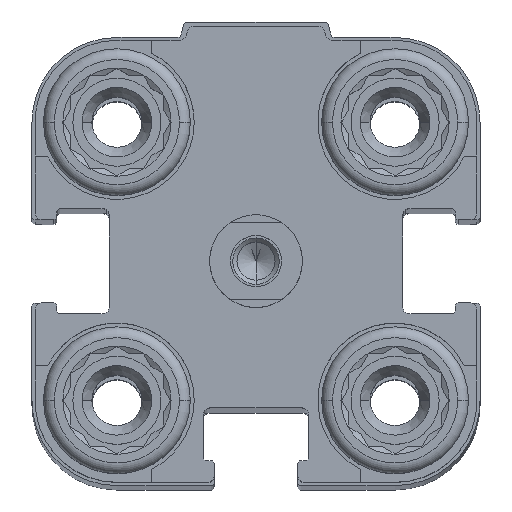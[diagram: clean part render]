
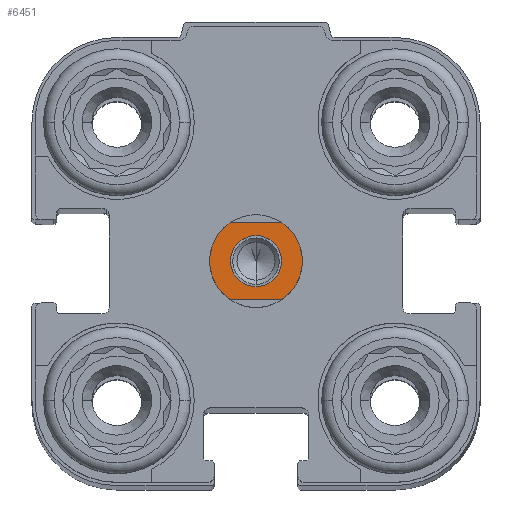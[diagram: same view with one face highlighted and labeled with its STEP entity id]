
A CAD part, top view. The second image highlights one B-rep face of the part: STEP entity #6451.
In plain terms, the highlighted planar face has unit normal (0, 0, 1).
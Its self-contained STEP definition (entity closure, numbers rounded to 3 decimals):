
#253 = ORIENTED_EDGE ( 'NONE', *, *, #8891, .T. ) ;
#346 = CIRCLE ( 'NONE', #14683, 3. ) ;
#625 = LINE ( 'NONE', #7267, #9492 ) ;
#680 = DIRECTION ( 'NONE',  ( 0., 1., 0. ) ) ;
#737 = EDGE_LOOP ( 'NONE', ( #8554, #253 ) ) ;
#1209 = DIRECTION ( 'NONE',  ( -1., 0., 0. ) ) ;
#1863 = DIRECTION ( 'NONE',  ( -1., 0., 0. ) ) ;
#2097 = DIRECTION ( 'NONE',  ( 0., 0., -1. ) ) ;
#2440 = EDGE_CURVE ( 'NONE', #14234, #14121, #9498, .T. ) ;
#2762 = CARTESIAN_POINT ( 'NONE',  ( 0., 0., 4.5 ) ) ;
#3178 = CARTESIAN_POINT ( 'NONE',  ( 0., 0., 4.5 ) ) ;
#3599 = CARTESIAN_POINT ( 'NONE',  ( 0., 0., 4.5 ) ) ;
#3734 = EDGE_LOOP ( 'NONE', ( #5976, #5076, #14768, #10509, #14003, #13148 ) ) ;
#4542 = EDGE_CURVE ( 'NONE', #5657, #8571, #6890, .T. ) ;
#4862 = CARTESIAN_POINT ( 'NONE',  ( 0., 0., 4.5 ) ) ;
#4865 = DIRECTION ( 'NONE',  ( 0., 0., -1. ) ) ;
#5046 = VERTEX_POINT ( 'NONE', #16073 ) ;
#5076 = ORIENTED_EDGE ( 'NONE', *, *, #13191, .F. ) ;
#5224 = EDGE_CURVE ( 'NONE', #6032, #5657, #625, .T. ) ;
#5272 = CARTESIAN_POINT ( 'NONE',  ( 0., 1.65, 4.5 ) ) ;
#5657 = VERTEX_POINT ( 'NONE', #14080 ) ;
#5815 = DIRECTION ( 'NONE',  ( 0., 0., -1. ) ) ;
#5976 = ORIENTED_EDGE ( 'NONE', *, *, #5224, .F. ) ;
#5980 = CARTESIAN_POINT ( 'NONE',  ( 0., 0., 4.5 ) ) ;
#6001 = DIRECTION ( 'NONE',  ( 0., 1., 0. ) ) ;
#6032 = VERTEX_POINT ( 'NONE', #15556 ) ;
#6096 = FACE_BOUND ( 'NONE', #737, .T. ) ;
#6178 = CARTESIAN_POINT ( 'NONE',  ( 5., -2.5, 4.5 ) ) ;
#6315 = VERTEX_POINT ( 'NONE', #16451 ) ;
#6451 = ADVANCED_FACE ( 'NONE', ( #7535, #6096 ), #15531, .F. ) ;
#6890 = CIRCLE ( 'NONE', #11467, 3. ) ;
#7162 = AXIS2_PLACEMENT_3D ( 'NONE', #8697, #11571, #6001 ) ;
#7234 = VECTOR ( 'NONE', #7708, 1000. ) ;
#7267 = CARTESIAN_POINT ( 'NONE',  ( -5., 2.5, 4.5 ) ) ;
#7535 = FACE_OUTER_BOUND ( 'NONE', #3734, .T. ) ;
#7708 = DIRECTION ( 'NONE',  ( -1., 0., 0. ) ) ;
#7742 = DIRECTION ( 'NONE',  ( 0., 0., -1. ) ) ;
#8554 = ORIENTED_EDGE ( 'NONE', *, *, #2440, .T. ) ;
#8571 = VERTEX_POINT ( 'NONE', #12089 ) ;
#8679 = DIRECTION ( 'NONE',  ( 0., 0., -1. ) ) ;
#8697 = CARTESIAN_POINT ( 'NONE',  ( 0., 0., 4.5 ) ) ;
#8779 = LINE ( 'NONE', #6178, #7234 ) ;
#8891 = EDGE_CURVE ( 'NONE', #14121, #14234, #11774, .T. ) ;
#9492 = VECTOR ( 'NONE', #15438, 1000. ) ;
#9498 = CIRCLE ( 'NONE', #11783, 1.65 ) ;
#9532 = EDGE_CURVE ( 'NONE', #5046, #6315, #346, .T. ) ;
#10176 = DIRECTION ( 'NONE',  ( 0., 1., 0. ) ) ;
#10472 = CARTESIAN_POINT ( 'NONE',  ( 0., -1.65, 4.5 ) ) ;
#10509 = ORIENTED_EDGE ( 'NONE', *, *, #15043, .F. ) ;
#10617 = CARTESIAN_POINT ( 'NONE',  ( 0., 0., 4.5 ) ) ;
#11467 = AXIS2_PLACEMENT_3D ( 'NONE', #10617, #7742, #1209 ) ;
#11571 = DIRECTION ( 'NONE',  ( 0., 0., -1. ) ) ;
#11774 = CIRCLE ( 'NONE', #14378, 1.65 ) ;
#11783 = AXIS2_PLACEMENT_3D ( 'NONE', #3178, #4865, #10176 ) ;
#12089 = CARTESIAN_POINT ( 'NONE',  ( 3., 0., 4.5 ) ) ;
#12873 = VERTEX_POINT ( 'NONE', #17132 ) ;
#13148 = ORIENTED_EDGE ( 'NONE', *, *, #4542, .F. ) ;
#13191 = EDGE_CURVE ( 'NONE', #6315, #6032, #13817, .T. ) ;
#13220 = DIRECTION ( 'NONE',  ( -1., 0., 0. ) ) ;
#13817 = CIRCLE ( 'NONE', #16958, 3. ) ;
#14003 = ORIENTED_EDGE ( 'NONE', *, *, #15263, .F. ) ;
#14080 = CARTESIAN_POINT ( 'NONE',  ( 1.658, 2.5, 4.5 ) ) ;
#14121 = VERTEX_POINT ( 'NONE', #10472 ) ;
#14234 = VERTEX_POINT ( 'NONE', #5272 ) ;
#14378 = AXIS2_PLACEMENT_3D ( 'NONE', #4862, #2097, #680 ) ;
#14683 = AXIS2_PLACEMENT_3D ( 'NONE', #5980, #8679, #1863 ) ;
#14768 = ORIENTED_EDGE ( 'NONE', *, *, #9532, .F. ) ;
#14986 = AXIS2_PLACEMENT_3D ( 'NONE', #2762, #5815, #15425 ) ;
#15043 = EDGE_CURVE ( 'NONE', #12873, #5046, #8779, .T. ) ;
#15263 = EDGE_CURVE ( 'NONE', #8571, #12873, #15829, .T. ) ;
#15425 = DIRECTION ( 'NONE',  ( -1., 0., 0. ) ) ;
#15438 = DIRECTION ( 'NONE',  ( 1., 0., 0. ) ) ;
#15531 = PLANE ( 'NONE',  #7162 ) ;
#15556 = CARTESIAN_POINT ( 'NONE',  ( -1.658, 2.5, 4.5 ) ) ;
#15829 = CIRCLE ( 'NONE', #14986, 3. ) ;
#16000 = DIRECTION ( 'NONE',  ( 0., 0., -1. ) ) ;
#16073 = CARTESIAN_POINT ( 'NONE',  ( -1.658, -2.5, 4.5 ) ) ;
#16451 = CARTESIAN_POINT ( 'NONE',  ( -3., 0., 4.5 ) ) ;
#16958 = AXIS2_PLACEMENT_3D ( 'NONE', #3599, #16000, #13220 ) ;
#17132 = CARTESIAN_POINT ( 'NONE',  ( 1.658, -2.5, 4.5 ) ) ;
